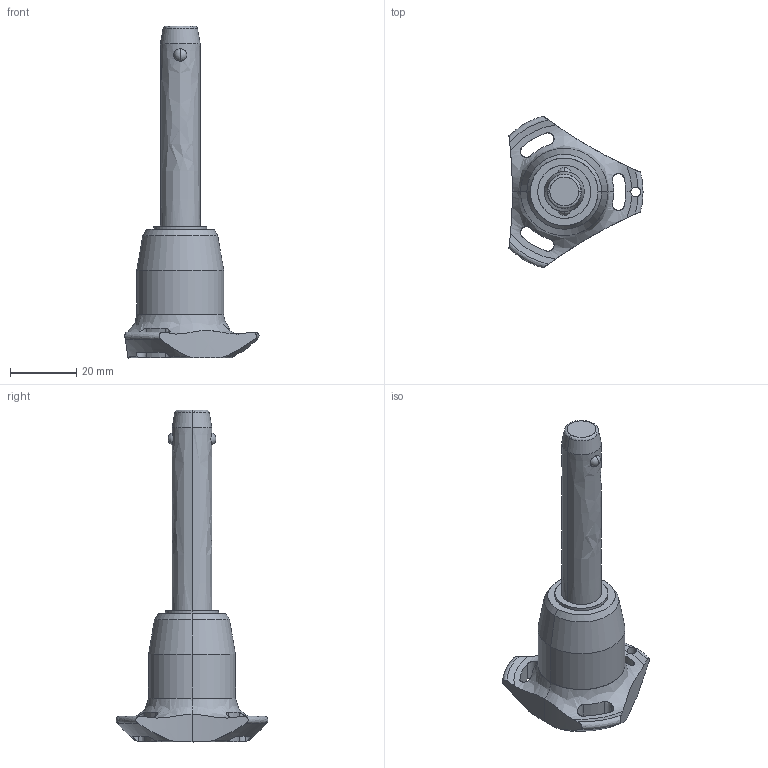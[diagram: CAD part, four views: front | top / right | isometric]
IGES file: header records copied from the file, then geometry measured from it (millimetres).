
Start section: SolidWorks IGES file using analytic representation for surfaces
Global section: file name: C:\Users\ianosborn\Desktop\QR1704_v2\QR1704_v2_20251111_IGES\QR1704.M12-050-S.igs; native system: SolidWorks 2019; preprocessor: SolidWorks 2019; author: IanOsborn; date: 251112.092531; units: millimetre
Bounding box: 40.5 x 45.88 x 100.3 mm (x, y, z)
Surface area: 8222.6 mm2 (no closed solid volume)
Topology: 0 solids, 0 shells, 65 faces, 1363 edges, 1359 vertices
Faces by surface type: revolution 50, bspline 15
